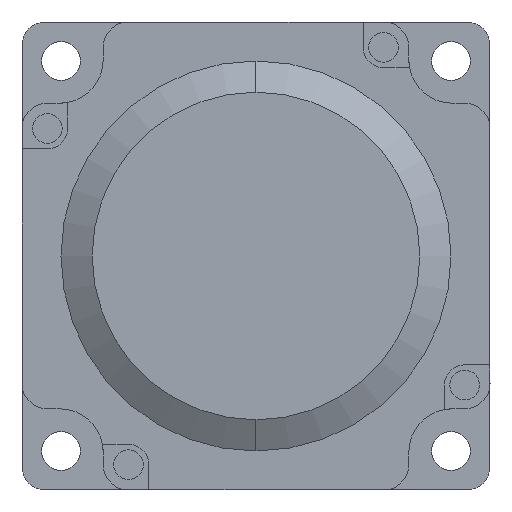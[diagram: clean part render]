
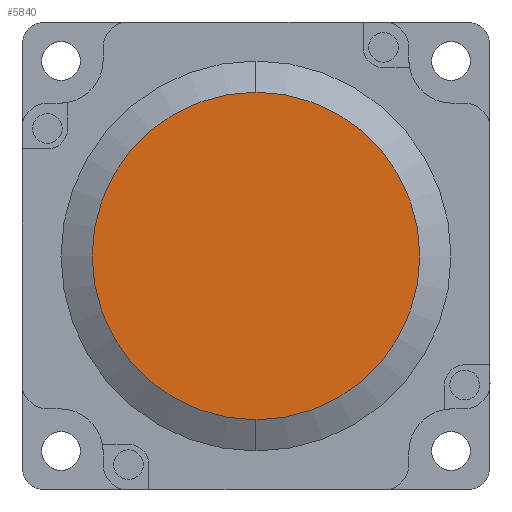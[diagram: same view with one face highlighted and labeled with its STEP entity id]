
A CAD part, front view. The second image highlights one B-rep face of the part: STEP entity #5840.
In plain terms, the highlighted planar face has unit normal (0, -1, 0).
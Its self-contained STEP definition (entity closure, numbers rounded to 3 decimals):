
#1716 = FACE_OUTER_BOUND ( 'NONE', #8520, .T. ) ;
#1748 = AXIS2_PLACEMENT_3D ( 'NONE', #7128, #6277, #5464 ) ;
#3358 = AXIS2_PLACEMENT_3D ( 'NONE', #9081, #3363, #9920 ) ;
#3363 = DIRECTION ( 'NONE',  ( 0., 1., 0. ) ) ;
#4134 = CIRCLE ( 'NONE', #3358, 21. ) ;
#4838 = DIRECTION ( 'NONE',  ( 0., 1., 0. ) ) ;
#4979 = AXIS2_PLACEMENT_3D ( 'NONE', #10339, #4838, #9766 ) ;
#5464 = DIRECTION ( 'NONE',  ( 0., 0., 1. ) ) ;
#5840 = ADVANCED_FACE ( 'NONE', ( #1716 ), #8715, .F. ) ;
#6277 = DIRECTION ( 'NONE',  ( 0., 1., 0. ) ) ;
#6318 = ORIENTED_EDGE ( 'NONE', *, *, #10086, .F. ) ;
#6622 = CIRCLE ( 'NONE', #4979, 21. ) ;
#7128 = CARTESIAN_POINT ( 'NONE',  ( 30., -2.3, -30. ) ) ;
#7320 = VERTEX_POINT ( 'NONE', #8509 ) ;
#7596 = CARTESIAN_POINT ( 'NONE',  ( 30., -2.3, -9. ) ) ;
#7812 = VERTEX_POINT ( 'NONE', #7596 ) ;
#7913 = ORIENTED_EDGE ( 'NONE', *, *, #10107, .F. ) ;
#8509 = CARTESIAN_POINT ( 'NONE',  ( 30., -2.3, -51. ) ) ;
#8520 = EDGE_LOOP ( 'NONE', ( #6318, #7913 ) ) ;
#8715 = PLANE ( 'NONE',  #1748 ) ;
#9081 = CARTESIAN_POINT ( 'NONE',  ( 30., -2.3, -30. ) ) ;
#9766 = DIRECTION ( 'NONE',  ( 0., 0., 1. ) ) ;
#9920 = DIRECTION ( 'NONE',  ( 0., 0., 1. ) ) ;
#10086 = EDGE_CURVE ( 'NONE', #7812, #7320, #4134, .T. ) ;
#10107 = EDGE_CURVE ( 'NONE', #7320, #7812, #6622, .T. ) ;
#10339 = CARTESIAN_POINT ( 'NONE',  ( 30., -2.3, -30. ) ) ;
